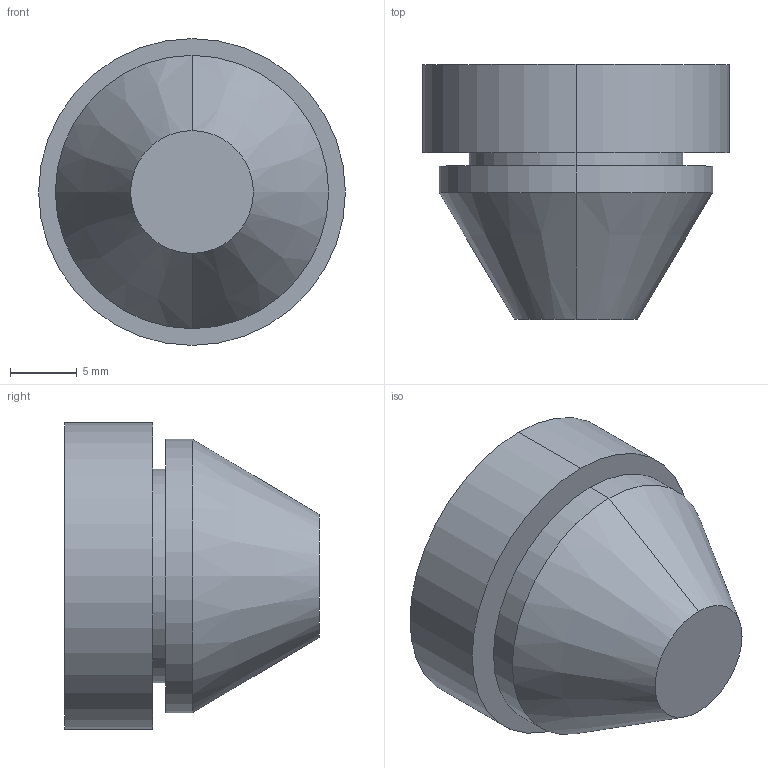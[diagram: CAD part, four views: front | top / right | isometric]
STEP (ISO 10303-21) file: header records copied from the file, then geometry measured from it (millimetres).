
FILE_DESCRIPTION (( 'STEP AP203' ), '1' );
FILE_NAME ('100587.STEP', '2012-10-25T05:20:39', ( 'Joni' ), ( 'Hewlett-Packard Company' ), 'SwSTEP 2.0', 'SolidWorks 2012', '' );
FILE_SCHEMA (( 'CONFIG_CONTROL_DESIGN' ));
Length unit declared in the file: millimetre
Products named in the file (1): 100587
Bounding box: 23 x 19.1 x 23 mm (x, y, z)
Volume: 5328.8 mm3; surface area: 1997.1 mm2
Topology: 1 solids, 1 shells, 12 faces, 22 edges, 14 vertices
Faces by surface type: cylinder 6, plane 4, cone 2
Entity records: 381 total; most frequent: DIRECTION 62, CARTESIAN_POINT 49, ORIENTED_EDGE 44, AXIS2_PLACEMENT_3D 27, EDGE_CURVE 22, CIRCLE 14, VERTEX_POINT 14, EDGE_LOOP 14
